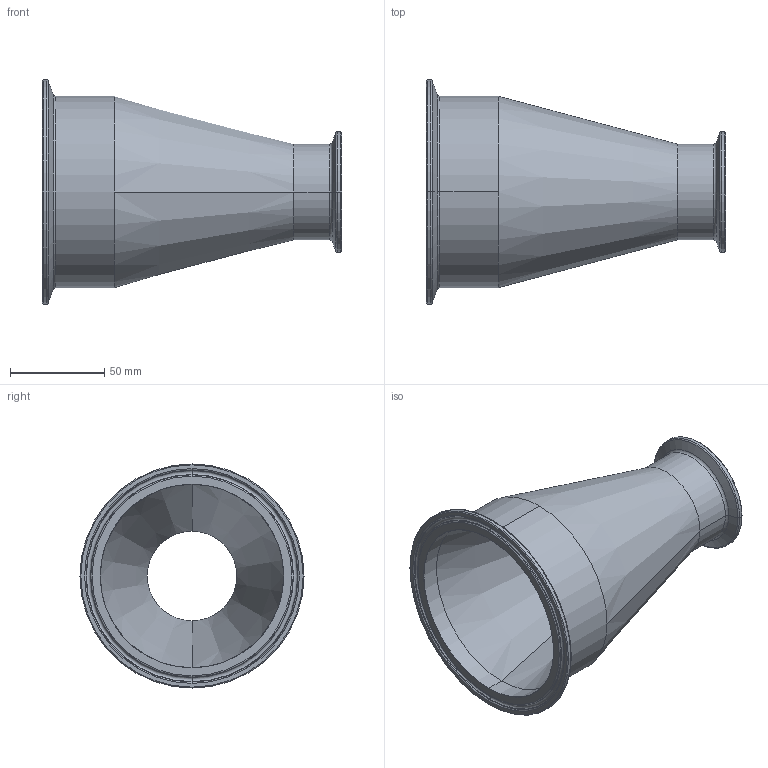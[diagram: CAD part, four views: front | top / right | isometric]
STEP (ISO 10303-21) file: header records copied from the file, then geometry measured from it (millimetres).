
FILE_DESCRIPTION (( 'STEP AP214' ), '1' );
FILE_NAME ('TEG31SCC6I4.0x2.0.STEP', '2016-05-29T14:45:50', ( 'eran' ), ( '' ), 'SwSTEP 2.0', 'SolidWorks 2016', '' );
FILE_SCHEMA (( 'AUTOMOTIVE_DESIGN' ));
Length unit declared in the file: millimetre
Products named in the file (1): TEG31SCC6I4.0x2.0
Bounding box: 158.75 x 119 x 119 mm (x, y, z)
Volume: 267341.3 mm3; surface area: 81619.6 mm2
Topology: 1 solids, 1 shells, 58 faces, 118 edges, 64 vertices
Faces by surface type: cone 22, torus 20, cylinder 12, plane 4
Entity records: 1552 total; most frequent: DIRECTION 320, CARTESIAN_POINT 241, ORIENTED_EDGE 236, AXIS2_PLACEMENT_3D 143, EDGE_CURVE 118, CIRCLE 84, VERTEX_POINT 64, EDGE_LOOP 62
